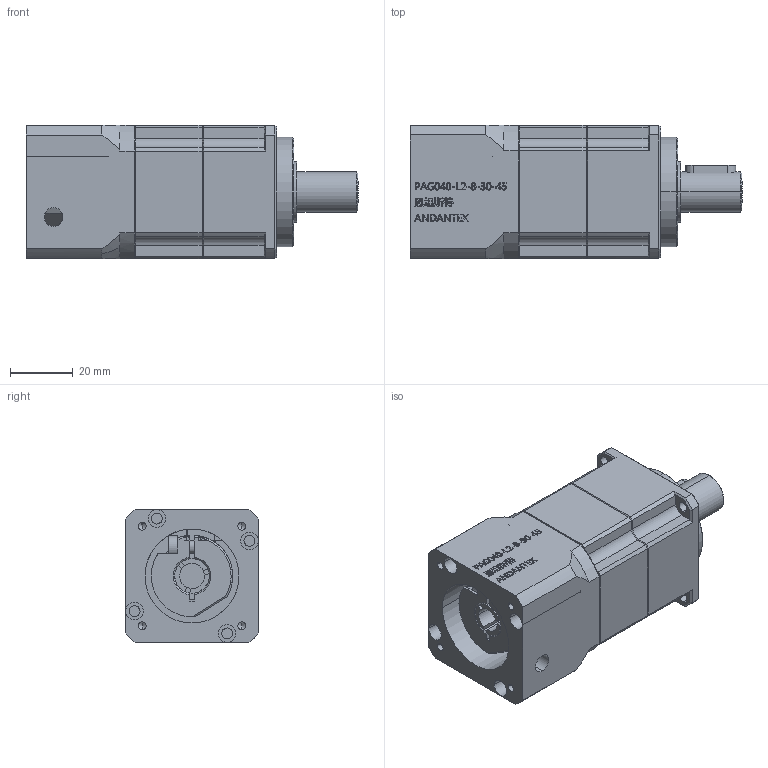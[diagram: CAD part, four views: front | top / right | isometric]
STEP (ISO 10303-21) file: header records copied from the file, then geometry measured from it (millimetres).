
FILE_DESCRIPTION (( 'STEP AP203' ), '1' );
FILE_NAME ('PAG040-L2-8-30-45.STEP', '2022-07-18T07:08:19', ( 'Windows User' ), ( 'P R C' ), 'SwSTEP 2.0', 'SolidWorks 2016', '' );
FILE_SCHEMA (( 'CONFIG_CONTROL_DESIGN' ));
Length unit declared in the file: millimetre
Products named in the file (6): PAG40-CQ01_PD42-CQ01+CQ02; PAG40-WZZ-8-30-M3-45-LR28_1123; PAG40-SJH(坶踡遠謂11); M3x12; 5X5X16; PAG040-L2-8-30-45
Assembly tree (5 placements, depth 2):
  PAG040-L2-8-30-45
    PAG40-CQ01_PD42-CQ01+CQ02
    PAG40-WZZ-8-30-M3-45-LR28_1123
    PAG40-SJH(坶踡遠謂11)
    M3x12
    5X5X16
Bounding box: 106 x 42.6 x 42.6 mm (x, y, z)
Volume: 126870.8 mm3; surface area: 35292.8 mm2
Topology: 23 solids, 24 shells, 1078 faces, 2948 edges, 1940 vertices
Faces by surface type: plane 640, bspline 211, cylinder 156, cone 64, sphere 5, torus 2
Entity records: 42993 total; most frequent: CARTESIAN_POINT 16274, ORIENTED_EDGE 5876, DIRECTION 4624, EDGE_CURVE 2938, VERTEX_POINT 1940, VECTOR 1804, LINE 1804, AXIS2_PLACEMENT_3D 1410
